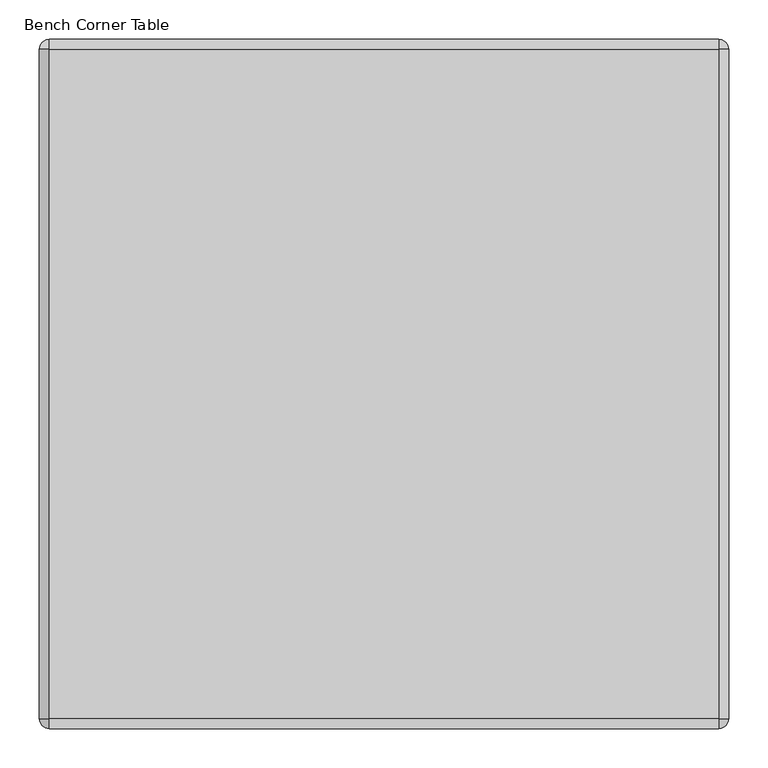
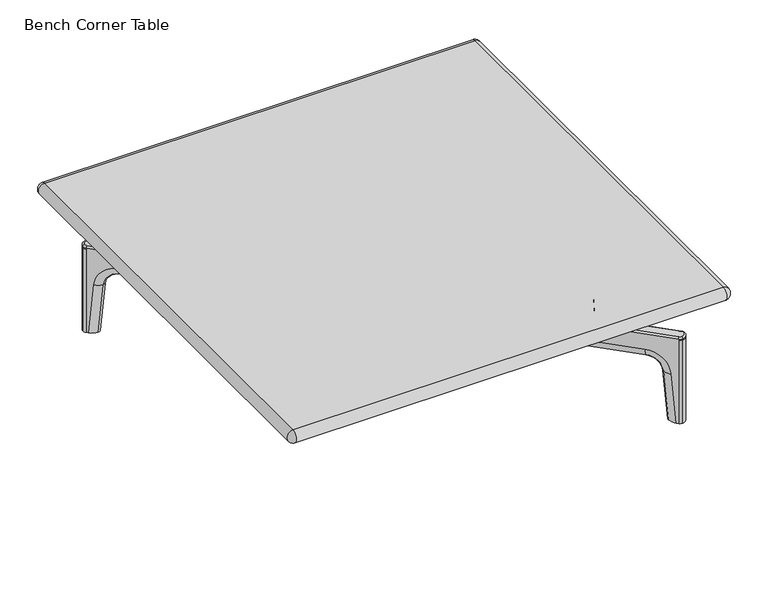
"""IFC4 building model written with IfcOpenShell, lengths in millimetres: furniture geometry, Stylex - NYC - Table : Bench Corner Table."""

from ifc_helpers import new_model, si_unit, point, frame, frame_2d, origin, place, context, project, spatial, polyline, circle_curve, ellipse_curve, trimmed, segment, composite_curve, outline, extrude, source, transform, mapped, element, save
from ifc_brep_helpers import plane_surface, cylinder_surface, revolved_surface, advanced_brep


def bench_corner_table_58ed4f08(model_context):
    return source(origin(), model_context, "Body", "SolidModel", [
        advanced_brep(
        [(-382.0547414, 370.5574512, 0.0), (-382.0547414, 370.5574512, 173.4104691), (-370.5574512, 382.0547414, 173.4104691), (-370.5574512, 382.0547414, 0.0), (-363.8925481, 379.6079963, 173.4104691), (-363.8925481, 379.6079963, 0.0), (-379.6079963, 363.8925481, 0.0), (-379.6079963, 363.8925481, 173.4104691), (-379.6079963, 363.8925481, 176.5854691), (-377.3629323, 366.1376122, 179.7604691), (-378.8903394, 370.2982501, 179.7604691), (-382.0547414, 370.5574512, 176.5854691), (-370.2982501, 378.8903394, 179.7604691), (-370.5574512, 382.0547414, 176.5854691), (-366.1376122, 377.3629323, 179.7604691), (-363.8925481, 379.6079963, 176.5854691), (-273.1247552, 261.8994351, 179.7604691), (-272.0022232, 263.0219671, 179.7604691), (-263.0219671, 272.0022232, 179.7604691), (-261.8994351, 273.1247552, 179.7604691), (354.8815567, -370.597005, 101.6111748), (361.1676129, -376.8830611, 0.0), (363.8925481, -379.6079963, 0.0), (363.8925481, -379.6079963, 173.4104691), (363.8925481, -379.6079963, 176.5854691), (259.6259655, -275.3414137, 176.5854691), (252.9000037, -268.6154519, 185.6119691), (251.7180773, -267.4335255, 217.506021), (-267.4619311, 251.7464829, 217.506021), (-268.6438575, 252.9284093, 185.6119691), (-275.3698193, 259.6543711, 176.5854691), (-376.8830611, 361.1676129, 0.0), (-370.597005, 354.8815567, 101.6111748), (-337.4084783, 321.6930301, 144.6197874), (321.6930301, -337.4084783, 144.6197874), (-354.8815567, 370.597005, 101.6111748), (-361.1676129, 376.8830611, 0.0), (-259.6543711, 275.3698193, 176.5854691), (-252.9284093, 268.6438575, 185.6119691), (-251.7464829, 267.4619311, 217.506021), (267.4335255, -251.7180773, 217.506021), (268.615452, -252.9000037, 185.6119691), (275.3414137, -259.6259655, 176.5854691), (379.6079963, -363.8925481, 176.5854691), (379.6079963, -363.8925481, 173.4104691), (379.6079963, -363.8925481, 0.0), (376.8830611, -361.1676129, 0.0), (370.597005, -354.8815567, 101.6111748), (337.4084783, -321.6930301, 144.6197874), (-321.6930301, 337.4084783, 144.6197874), (-361.5708392, 354.3766366, 0.0), (-355.3687323, 348.1745297, 100.2541732), (-354.3766366, 361.5708392, 0.0), (-348.1745297, 355.3687323, 100.2541732), (-333.1478555, 325.9536529, 129.0499403), (-325.9536529, 333.1478555, 129.0499403), (325.9536529, -333.1478555, 129.0499403), (333.1478555, -325.9536529, 129.0499403), (348.1745297, -355.3687323, 100.2541732), (355.3687323, -348.1745297, 100.2541732), (354.3766366, -361.5708392, 0.0), (361.5708392, -354.3766366, 0.0), (382.0547414, -370.5574512, 0.0), (370.5574512, -382.0547414, 0.0), (-267.5182487, 258.5379926, 185.7781358), (-258.5379926, 267.5182487, 185.7781358), (-268.6407807, 257.4154606, 185.7781358), (-267.3473532, 256.1220331, 220.681021), (-256.1220331, 267.3473532, 220.681021), (-257.4154606, 268.6407807, 185.7781358), (256.0936275, -267.3189477, 220.681021), (267.3189477, -256.0936275, 220.681021), (267.4898432, -258.509587, 185.7781358), (268.6123752, -257.387055, 185.7781358), (257.387055, -268.6123752, 185.7781358), (258.509587, -267.4898432, 185.7781358), (262.9935615, -271.9738176, 179.7604691), (271.9738176, -262.9935615, 179.7604691), (261.8710295, -273.0963497, 179.7604691), (366.1376122, -377.3629323, 179.7604691), (370.2982501, -378.8903394, 179.7604691), (378.8903394, -370.2982501, 179.7604691), (377.3629323, -366.1376122, 179.7604691), (273.0963497, -261.8710295, 179.7604691), (382.0547414, -370.5574512, 173.4104691), (370.5574512, -382.0547414, 173.4104691), (370.5574512, -382.0547414, 176.5854691), (382.0547414, -370.5574512, 176.5854691)],
        [
            (0, 1),
            (1, 2, circle_curve(frame((-369.5316668, 369.5316668, 173.4104691), z_axis=(0.0, 0.0, -1.0), x_axis=(-0.7071067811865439, -0.7071067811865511, 0.0)), 12.5650161)),
            (2, 3),
            (3, 0, circle_curve(frame((-369.5316668, 369.5316668, 0.0), z_axis=(0.0, 0.0, 1.0), x_axis=(-0.7071067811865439, -0.7071067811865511, 0.0)), 12.5650161)),
            (2, 4, circle_curve(frame((-369.8676081, 373.6329363, 173.4104691), z_axis=(0.0, 0.0, -1.0), x_axis=(-0.7071067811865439, -0.7071067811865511, 0.0)), 8.4500109)),
            (4, 5),
            (5, 3, circle_curve(frame((-369.8676081, 373.6329363, 0.0), z_axis=(0.0, 0.0, 1.0), x_axis=(-0.7071067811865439, -0.7071067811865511, 0.0)), 8.4500109)),
            (6, 7),
            (7, 1, circle_curve(frame((-373.6329363, 369.8676081, 173.4104691), z_axis=(0.0, 0.0, -1.0), x_axis=(-0.7071067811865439, -0.7071067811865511, 0.0)), 8.4500109)),
            (0, 6, circle_curve(frame((-373.6329363, 369.8676081, 0.0), z_axis=(0.0, 0.0, 1.0), x_axis=(-0.7071067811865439, -0.7071067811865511, 0.0)), 8.4500109)),
            (8, 9, circle_curve(frame((-377.3629323, 366.1376122, 176.5854691), z_axis=(-0.7071067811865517, 0.7071067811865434, 0.0), x_axis=(0.7071067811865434, 0.7071067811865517, 0.0)), 3.175)),
            (9, 10, circle_curve(frame((-373.6329363, 369.8676081, 179.7604691), z_axis=(0.0, 0.0, -1.0), x_axis=(-0.7071067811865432, -0.7071067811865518, 0.0)), 5.2750109)),
            (10, 11, circle_curve(frame((-378.8903394, 370.2982501, 176.5854691), z_axis=(-0.081638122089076, -0.996662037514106, 0.0), x_axis=(0.996662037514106, -0.081638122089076, 0.0)), 3.175)),
            (11, 8, circle_curve(frame((-373.6329363, 369.8676081, 176.5854691), z_axis=(0.0, 0.0, 1.0), x_axis=(-0.7071067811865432, -0.7071067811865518, 0.0)), 8.4500109)),
            (11, 1),
            (7, 8),
            (10, 12, circle_curve(frame((-369.5316668, 369.5316668, 179.7604691), z_axis=(0.0, 0.0, -1.0), x_axis=(-0.9966620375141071, 0.08163812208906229, 0.0)), 9.3900161)),
            (12, 13, circle_curve(frame((-370.2982501, 378.8903394, 176.5854691), z_axis=(-0.9966620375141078, -0.08163812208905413, 0.0), x_axis=(0.08163812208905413, -0.9966620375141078, 0.0)), 3.175)),
            (13, 11, circle_curve(frame((-369.5316668, 369.5316668, 176.5854691), z_axis=(0.0, 0.0, 1.0), x_axis=(-0.9966620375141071, 0.08163812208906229, 0.0)), 12.5650161)),
            (13, 2),
            (12, 14, circle_curve(frame((-369.8676081, 373.6329363, 179.7604691), z_axis=(0.0, 0.0, -1.0), x_axis=(-0.08163812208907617, 0.996662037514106, 0.0)), 5.2750109)),
            (14, 15, circle_curve(frame((-366.1376122, 377.3629323, 176.5854691), z_axis=(-0.7071067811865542, 0.7071067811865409, 0.0), x_axis=(-0.7071067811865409, -0.7071067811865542, 0.0)), 3.175)),
            (15, 13, circle_curve(frame((-369.8676081, 373.6329363, 176.5854691), z_axis=(0.0, 0.0, 1.0), x_axis=(-0.08163812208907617, 0.996662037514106, 0.0)), 8.4500109)),
            (15, 4),
            (9, 16),
            (16, 17),
            (17, 18),
            (18, 19),
            (19, 14),
            (20, 21),
            (21, 22),
            (22, 23),
            (23, 24),
            (24, 25),
            (25, 26, circle_curve(frame((259.6259655, -275.3414137, 186.1104691), z_axis=(0.7071067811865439, 0.7071067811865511, 0.0), x_axis=(0.0, 0.0, -1.0)), 9.525)),
            (26, 27),
            (27, 28),
            (28, 29),
            (29, 30, circle_curve(frame((-275.3698193, 259.6543711, 186.1104691), z_axis=(0.7071067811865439, 0.7071067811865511, 0.0), x_axis=(0.7061377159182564, -0.7061377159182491, -0.05233595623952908)), 9.525)),
            (30, 8),
            (6, 31),
            (31, 32),
            (32, 33, circle_curve(frame((-337.4084783, 321.6930301, 97.5048362), z_axis=(0.7071067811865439, 0.7071067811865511, 0.0), x_axis=(-0.7044160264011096, 0.7044160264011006, 0.08715574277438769)), 47.1149511)),
            (33, 34),
            (34, 20, circle_curve(frame((321.6930301, -337.4084783, 97.5048362), z_axis=(0.7071067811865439, 0.7071067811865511, 0.0), x_axis=(0.0, 0.0, 1.0)), 47.1149511)),
            (35, 36),
            (36, 5),
            (15, 37),
            (37, 38, circle_curve(frame((-259.6543711, 275.3698193, 186.1104691), z_axis=(-0.7071067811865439, -0.7071067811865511, 0.0), x_axis=(0.0, 0.0, -1.0)), 9.525)),
            (38, 39),
            (39, 40),
            (40, 41),
            (41, 42, circle_curve(frame((275.3414137, -259.6259655, 186.1104691), z_axis=(-0.7071067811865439, -0.7071067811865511, 0.0), x_axis=(-0.70613771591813, 0.7061377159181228, -0.05233595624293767)), 9.525)),
            (42, 43),
            (43, 44),
            (44, 45),
            (45, 46),
            (46, 47),
            (47, 48, circle_curve(frame((337.4084783, -321.6930301, 97.5048362), z_axis=(-0.7071067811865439, -0.7071067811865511, 0.0), x_axis=(0.0, 0.0, 1.0)), 47.1149511)),
            (48, 49),
            (49, 35, circle_curve(frame((-321.6930301, 337.4084783, 97.5048362), z_axis=(-0.7071067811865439, -0.7071067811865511, 0.0), x_axis=(-0.7044160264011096, 0.7044160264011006, 0.08715574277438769)), 47.1149511)),
            (31, 50, ellipse_curve(frame((-360.5282954, 377.5223786, 0.0), z_axis=(0.0, 0.0, 1.0), x_axis=(-0.7071067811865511, 0.7071067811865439, 0.0)), 23.217481, 23.1291315)),
            (50, 51),
            (51, 32, circle_curve(frame((-354.2422392, 371.2363225, 101.6111748), z_axis=(-0.061628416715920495, 0.06162841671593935, -0.9961946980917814), x_axis=(0.7071067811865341, 0.7071067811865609, 0.0)), 23.1291315)),
            (50, 52, ellipse_curve(frame((-361.2607605, 361.2607605, 0.0), z_axis=(0.0, 0.0, 1.0), x_axis=(-0.7071067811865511, 0.7071067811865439, 0.0)), 6.9054609, 6.8791835)),
            (52, 53),
            (53, 51, circle_curve(frame((-355.033685, 355.033685, 100.6577795), z_axis=(-0.061628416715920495, 0.06162841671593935, -0.9961946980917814), x_axis=(-0.7071067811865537, -0.7071067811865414, 0.0)), 6.8791835)),
            (52, 36, ellipse_curve(frame((-377.5223786, 360.5282954, 0.0), z_axis=(0.0, 0.0, 1.0), x_axis=(-0.7071067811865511, 0.7071067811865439, 0.0)), 23.217481, 23.1291315)),
            (35, 53, circle_curve(frame((-371.2363225, 354.2422392, 101.6111748), z_axis=(-0.061628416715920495, 0.06162841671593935, -0.9961946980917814), x_axis=(-0.7071067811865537, -0.7071067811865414, 0.0)), 23.1291315)),
            (51, 54, circle_curve(frame((-333.1478555, 325.9536529, 97.5048362), z_axis=(0.7071067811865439, 0.7071067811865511, 0.0), x_axis=(-0.7044160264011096, 0.7044160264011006, 0.08715574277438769)), 31.545104)),
            (54, 33, circle_curve(frame((-321.0537126, 338.0477958, 144.6197874), z_axis=(-0.7071067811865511, 0.7071067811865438, 0.0), x_axis=(0.7071067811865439, 0.7071067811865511, 0.0)), 23.1291315)),
            (53, 55, circle_curve(frame((-325.9536529, 333.1478555, 97.5048362), z_axis=(0.7071067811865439, 0.7071067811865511, 0.0), x_axis=(-0.7044160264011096, 0.7044160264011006, 0.08715574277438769)), 31.545104)),
            (55, 54, circle_curve(frame((-329.5507542, 329.5507542, 133.6808031), z_axis=(-0.7071067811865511, 0.7071067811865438, 0.0), x_axis=(-0.7071067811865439, -0.7071067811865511, 0.0)), 6.8791835)),
            (49, 55, circle_curve(frame((-338.0477958, 321.0537126, 144.6197874), z_axis=(-0.7071067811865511, 0.7071067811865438, 0.0), x_axis=(-0.7071067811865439, -0.7071067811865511, 0.0)), 23.1291315)),
            (54, 56),
            (56, 34, circle_curve(frame((338.0477958, -321.0537126, 144.6197874), z_axis=(-0.7071067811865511, 0.7071067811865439, 0.0), x_axis=(0.7071067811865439, 0.7071067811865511, 0.0)), 23.1291315)),
            (55, 57),
            (57, 56, circle_curve(frame((329.5507542, -329.5507542, 133.6808031), z_axis=(-0.7071067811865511, 0.7071067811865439, 0.0), x_axis=(-0.7071067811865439, -0.7071067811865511, 0.0)), 6.8791835)),
            (48, 57, circle_curve(frame((321.0537126, -338.0477958, 144.6197874), z_axis=(-0.7071067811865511, 0.7071067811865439, 0.0), x_axis=(-0.7071067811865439, -0.7071067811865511, 0.0)), 23.1291315)),
            (56, 58, circle_curve(frame((325.9536529, -333.1478555, 97.5048362), z_axis=(0.7071067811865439, 0.7071067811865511, 0.0), x_axis=(0.0, 0.0, 1.0)), 31.545104)),
            (58, 20, circle_curve(frame((371.2363225, -354.2422392, 101.6111748), z_axis=(-0.0616284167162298, 0.0616284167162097, 0.9961946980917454), x_axis=(0.7071067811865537, 0.7071067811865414, 0.0)), 23.1291315)),
            (57, 59, circle_curve(frame((333.1478555, -325.9536529, 97.5048362), z_axis=(0.7071067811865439, 0.7071067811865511, 0.0), x_axis=(0.0, 0.0, 1.0)), 31.545104)),
            (59, 58, circle_curve(frame((355.033685, -355.033685, 100.6577795), z_axis=(-0.06162841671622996, 0.061628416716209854, 0.9961946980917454), x_axis=(-0.7071067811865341, -0.7071067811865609, 0.0)), 6.8791835)),
            (47, 59, circle_curve(frame((354.2422392, -371.2363225, 101.6111748), z_axis=(-0.06162841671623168, 0.061628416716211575, 0.9961946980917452), x_axis=(-0.7071067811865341, -0.7071067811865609, 0.0)), 23.1291315)),
            (58, 60),
            (60, 21, ellipse_curve(frame((377.5223786, -360.5282954, 0.0), z_axis=(0.0, 0.0, 1.0), x_axis=(-0.7071067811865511, 0.7071067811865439, 0.0)), 23.217481, 23.1291315)),
            (59, 61),
            (61, 60, ellipse_curve(frame((361.2607605, -361.2607605, 0.0), z_axis=(0.0, 0.0, 1.0), x_axis=(-0.7071067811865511, 0.7071067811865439, 0.0)), 6.9054609, 6.8791835)),
            (46, 61, ellipse_curve(frame((360.5282954, -377.5223786, 0.0), z_axis=(0.0, 0.0, 1.0), x_axis=(-0.7071067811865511, 0.7071067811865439, 0.0)), 23.217481, 23.1291315)),
            (45, 62, circle_curve(frame((373.6329363, -369.8676081, 0.0), z_axis=(0.0, 0.0, -1.0), x_axis=(-0.7071067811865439, -0.7071067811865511, 0.0)), 8.4500109)),
            (62, 63, circle_curve(frame((369.5316668, -369.5316668, 0.0), z_axis=(0.0, 0.0, -1.0), x_axis=(-0.7071067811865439, -0.7071067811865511, 0.0)), 12.5650161)),
            (63, 22, circle_curve(frame((369.8676081, -373.6329363, 0.0), z_axis=(0.0, 0.0, -1.0), x_axis=(-0.7071067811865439, -0.7071067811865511, 0.0)), 8.4500109)),
            (17, 64, circle_curve(frame((-272.0022232, 263.0219671, 186.1104691), z_axis=(-0.7071067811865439, -0.7071067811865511, 0.0), x_axis=(-0.7071067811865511, 0.7071067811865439, 0.0)), 6.35)),
            (64, 65),
            (65, 18, circle_curve(frame((-263.0219671, 272.0022232, 186.1104691), z_axis=(0.7071067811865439, 0.7071067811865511, 0.0), x_axis=(-0.7071067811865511, 0.7071067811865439, 0.0)), 6.35)),
            (64, 66),
            (66, 67),
            (67, 68),
            (68, 69),
            (69, 65),
            (70, 71),
            (71, 68),
            (67, 70),
            (72, 73),
            (73, 71),
            (70, 74),
            (74, 75),
            (75, 72),
            (75, 76, circle_curve(frame((262.9935615, -271.9738176, 186.1104691), z_axis=(-0.7071067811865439, -0.7071067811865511, 0.0), x_axis=(-0.7071067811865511, 0.7071067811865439, 0.0)), 6.35)),
            (76, 77),
            (77, 72, circle_curve(frame((271.9738176, -262.9935615, 186.1104691), z_axis=(0.7071067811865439, 0.7071067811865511, 0.0), x_axis=(-0.7071067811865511, 0.7071067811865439, 0.0)), 6.35)),
            (76, 78),
            (78, 79),
            (79, 80, circle_curve(frame((369.8676081, -373.6329363, 179.7604691), z_axis=(0.0, 0.0, 1.0), x_axis=(-0.7071067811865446, -0.7071067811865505, 0.0)), 5.2750109)),
            (80, 81, circle_curve(frame((369.5316668, -369.5316668, 179.7604691), z_axis=(0.0, 0.0, 1.0), x_axis=(0.08163812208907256, -0.9966620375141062, 0.0)), 9.3900161)),
            (81, 82, circle_curve(frame((373.6329363, -369.8676081, 179.7604691), z_axis=(0.0, 0.0, 1.0), x_axis=(0.9966620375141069, -0.08163812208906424, 0.0)), 5.2750109)),
            (82, 83),
            (83, 77),
            (62, 84),
            (84, 85, circle_curve(frame((369.5316668, -369.5316668, 173.4104691), z_axis=(0.0, 0.0, -1.0), x_axis=(-0.7071067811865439, -0.7071067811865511, 0.0)), 12.5650161)),
            (85, 63),
            (44, 84, circle_curve(frame((373.6329363, -369.8676081, 173.4104691), z_axis=(0.0, 0.0, -1.0), x_axis=(-0.7071067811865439, -0.7071067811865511, 0.0)), 8.4500109)),
            (85, 23, circle_curve(frame((369.8676081, -373.6329363, 173.4104691), z_axis=(0.0, 0.0, -1.0), x_axis=(-0.7071067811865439, -0.7071067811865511, 0.0)), 8.4500109)),
            (86, 80, circle_curve(frame((370.2982501, -378.8903394, 176.5854691), z_axis=(-0.9966620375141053, -0.08163812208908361, 0.0), x_axis=(0.08163812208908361, -0.9966620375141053, 0.0)), 3.175)),
            (79, 24, circle_curve(frame((366.1376122, -377.3629323, 176.5854691), z_axis=(0.7071067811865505, -0.7071067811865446, 0.0), x_axis=(-0.7071067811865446, -0.7071067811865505, 0.0)), 3.175)),
            (24, 86, circle_curve(frame((369.8676081, -373.6329363, 176.5854691), z_axis=(0.0, 0.0, 1.0), x_axis=(-0.7071067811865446, -0.7071067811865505, 0.0)), 8.4500109)),
            (85, 86),
            (86, 87, circle_curve(frame((369.5316668, -369.5316668, 176.5854691), z_axis=(0.0, 0.0, 1.0), x_axis=(0.08163812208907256, -0.9966620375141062, 0.0)), 12.5650161)),
            (87, 81, circle_curve(frame((378.8903394, -370.2982501, 176.5854691), z_axis=(-0.08163812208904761, -0.9966620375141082, 0.0), x_axis=(0.9966620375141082, -0.08163812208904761, 0.0)), 3.175)),
            (84, 87),
            (87, 43, circle_curve(frame((373.6329363, -369.8676081, 176.5854691), z_axis=(0.0, 0.0, 1.0), x_axis=(0.9966620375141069, -0.08163812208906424, 0.0)), 8.4500109)),
            (43, 82, circle_curve(frame((377.3629323, -366.1376122, 176.5854691), z_axis=(0.7071067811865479, -0.7071067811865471, 0.0), x_axis=(0.7071067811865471, 0.7071067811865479, 0.0)), 3.175)),
            (78, 25, circle_curve(frame((261.8710295, -273.0963497, 176.5854691), z_axis=(0.7071067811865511, -0.7071067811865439, 0.0), x_axis=(0.0, 0.0, 1.0)), 3.175)),
            (78, 74, circle_curve(frame((261.8710295, -273.0963497, 186.1104691), z_axis=(0.7071067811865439, 0.7071067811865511, 0.0), x_axis=(0.0, 0.0, -1.0)), 6.35)),
            (74, 26, circle_curve(frame((255.1450678, -266.3703879, 185.6119691), z_axis=(0.03700710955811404, -0.037007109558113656, -0.9986295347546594), x_axis=(0.7061377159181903, -0.7061377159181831, 0.05233595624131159)), 3.175)),
            (70, 27, ellipse_curve(frame((253.9631413, -265.1884615, 217.506021), z_axis=(0.5129171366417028, -0.5129171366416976, -0.6883545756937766), x_axis=(-0.48674018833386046, 0.4867401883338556, -0.7253743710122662)), 4.3770502, 3.175)),
            (67, 28, ellipse_curve(frame((-265.216867, 253.9915469, 217.506021), z_axis=(0.5129171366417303, -0.5129171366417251, 0.6883545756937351), x_axis=(0.4867401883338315, -0.4867401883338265, -0.7253743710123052)), 4.3770502, 3.175)),
            (30, 16, circle_curve(frame((-273.1247552, 261.8994351, 176.5854691), z_axis=(-0.7071067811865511, 0.7071067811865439, 0.0), x_axis=(0.0, 0.0, 1.0)), 3.175)),
            (19, 37, circle_curve(frame((-261.8994351, 273.1247552, 176.5854691), z_axis=(-0.7071067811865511, 0.7071067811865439, 0.0), x_axis=(0.0, 0.0, 1.0)), 3.175)),
            (39, 68, ellipse_curve(frame((-253.9915469, 265.216867, 217.506021), z_axis=(0.5129171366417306, -0.5129171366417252, 0.688354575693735), x_axis=(-0.4867401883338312, 0.4867401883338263, 0.7253743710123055)), 4.3770502, 3.175)),
            (71, 40, ellipse_curve(frame((265.1884615, -253.9631413, 217.506021), z_axis=(-0.512917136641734, 0.5129171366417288, 0.6883545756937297), x_axis=(-0.4867401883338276, 0.4867401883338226, -0.7253743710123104)), 4.3770502, 3.175)),
            (42, 83, circle_curve(frame((273.0963497, -261.8710295, 176.5854691), z_axis=(0.7071067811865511, -0.7071067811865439, 0.0), x_axis=(0.0, 0.0, 1.0)), 3.175)),
            (66, 29, circle_curve(frame((-266.3987935, 255.1734733, 185.6119691), z_axis=(0.037007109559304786, -0.037007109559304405, 0.9986295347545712), x_axis=(-0.7061377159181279, 0.7061377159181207, 0.05233595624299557)), 3.175)),
            (66, 16, circle_curve(frame((-273.1247552, 261.8994351, 186.1104691), z_axis=(0.7071067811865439, 0.7071067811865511, 0.0), x_axis=(0.7061377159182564, -0.7061377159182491, -0.05233595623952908)), 6.35)),
            (69, 19, circle_curve(frame((-261.8994351, 273.1247552, 186.1104691), z_axis=(0.7071067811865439, 0.7071067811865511, 0.0), x_axis=(0.0, 0.0, -1.0)), 6.35)),
            (69, 38, circle_curve(frame((-255.1734733, 266.3987935, 185.6119691), z_axis=(-0.03700710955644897, 0.037007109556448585, -0.9986295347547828), x_axis=(-0.7061377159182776, 0.7061377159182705, 0.052335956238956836)), 3.175)),
            (73, 41, circle_curve(frame((266.3703879, -255.1450678, 185.6119691), z_axis=(-0.0370071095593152, 0.03700710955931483, 0.9986295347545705), x_axis=(0.7061377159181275, -0.7061377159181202, 0.05233595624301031)), 3.175)),
            (83, 73, circle_curve(frame((273.0963497, -261.8710295, 186.1104691), z_axis=(0.7071067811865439, 0.7071067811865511, 0.0), x_axis=(-0.70613771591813, 0.7061377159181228, -0.05233595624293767)), 6.35)),
        ],
        [
            cylinder_surface(frame((-369.5316668, 369.5316668, 0.0), z_axis=(0.0, 0.0, 1.0), x_axis=(-0.7071067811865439, -0.7071067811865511, 0.0)), 12.5650161),
            cylinder_surface(frame((-369.8676081, 373.6329363, 0.0), z_axis=(0.0, 0.0, 1.0), x_axis=(-0.7071067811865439, -0.7071067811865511, 0.0)), 8.4500109),
            cylinder_surface(frame((-373.6329363, 369.8676081, 0.0), z_axis=(0.0, 0.0, 1.0), x_axis=(-0.7071067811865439, -0.7071067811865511, 0.0)), 8.4500109),
            revolved_surface(trimmed(ellipse_curve(frame((-377.3629323, 366.1376122, 176.5854691), z_axis=(-0.7071067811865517, 0.7071067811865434, 0.0), x_axis=(0.7071067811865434, 0.7071067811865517, 0.0)), 3.175, 3.175), [point((-379.6079963, 363.8925481, 176.5854691))], [point((-377.3629323, 366.1376122, 179.7604691))], True, "CARTESIAN"), (-373.6329363, 369.8676081, 0.0), (0.0, 0.0, 1.0)),
            cylinder_surface(frame((-373.6329363, 369.8676081, 0.0), z_axis=(0.0, 0.0, 1.0), x_axis=(-0.7071067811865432, -0.7071067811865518, 0.0)), 8.4500109),
            revolved_surface(trimmed(ellipse_curve(frame((-378.8903394, 370.2982501, 176.5854691), z_axis=(0.08163812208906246, 0.9966620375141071, 0.0), x_axis=(0.9966620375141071, -0.08163812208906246, 0.0)), 3.175, 3.175), [point((-382.0547414, 370.5574512, 176.5854691))], [point((-378.8903394, 370.2982501, 179.7604691))], True, "CARTESIAN"), (-369.5316668, 369.5316668, 0.0), (0.0, 0.0, 1.0)),
            cylinder_surface(frame((-369.5316668, 369.5316668, 0.0), z_axis=(0.0, 0.0, 1.0), x_axis=(-0.9966620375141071, 0.08163812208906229, 0.0)), 12.5650161),
            revolved_surface(trimmed(ellipse_curve(frame((-370.2982501, 378.8903394, 176.5854691), z_axis=(0.996662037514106, 0.08163812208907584, 0.0), x_axis=(0.08163812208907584, -0.996662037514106, 0.0)), 3.175, 3.175), [point((-370.5574512, 382.0547414, 176.5854691))], [point((-370.2982501, 378.8903394, 179.7604691))], True, "CARTESIAN"), (-369.8676081, 373.6329363, 0.0), (0.0, 0.0, 1.0)),
            cylinder_surface(frame((-369.8676081, 373.6329363, 0.0), z_axis=(0.0, 0.0, 1.0), x_axis=(-0.08163812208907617, 0.996662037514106, 0.0)), 8.4500109),
            plane_surface(frame((-357.9383265, 366.9185826, 179.7604691), z_axis=(0.0, 0.0, 1.0), x_axis=(0.7071067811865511, -0.7071067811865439, 0.0))),
            plane_surface(frame((-380.1078761, 364.3924279, -8.0803238), z_axis=(-0.7071067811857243, -0.7071067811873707, 0.0), x_axis=(0.06162841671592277, -0.06162841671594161, 0.9961946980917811))),
            plane_surface(frame((-361.6881916, 377.4036398, -8.4149126), z_axis=(0.7071067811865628, 0.7071067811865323, 0.0), x_axis=(0.0616284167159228, -0.06162841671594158, 0.9961946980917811))),
            cylinder_surface(frame((-361.0488741, 378.0429573, -8.4149126), z_axis=(-0.061628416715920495, 0.06162841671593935, -0.9961946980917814), x_axis=(0.7071067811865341, 0.7071067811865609, 0.0)), 23.1291315),
            cylinder_surface(frame((-361.8403199, 361.8403199, -9.3683079), z_axis=(-0.061628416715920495, 0.06162841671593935, -0.9961946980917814), x_axis=(-0.7071067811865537, -0.7071067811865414, 0.0)), 6.8791835),
            cylinder_surface(frame((-378.0429573, 361.0488741, -8.4149126), z_axis=(-0.061628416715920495, 0.06162841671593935, -0.9961946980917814), x_axis=(-0.7071067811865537, -0.7071067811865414, 0.0)), 23.1291315),
            revolved_surface(trimmed(ellipse_curve(frame((-354.2422392, 371.2363225, 101.6111748), z_axis=(0.0616284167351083, -0.06162841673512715, 0.9961946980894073), x_axis=(0.7071067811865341, 0.7071067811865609, 0.0)), 23.1291315, 23.1291315), [point((-370.597005, 354.8815567, 101.6111748))], [point((-355.3687323, 348.1745297, 100.2541732))], True, "CARTESIAN"), (-329.5507542, 329.5507542, 97.5048362), (-0.7071067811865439, -0.7071067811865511, 0.0)),
            revolved_surface(trimmed(ellipse_curve(frame((-355.033685, 355.033685, 100.6577795), z_axis=(0.0616284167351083, -0.06162841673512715, 0.9961946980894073), x_axis=(-0.7071067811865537, -0.7071067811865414, 0.0)), 6.8791835, 6.8791835), [point((-355.3687323, 348.1745297, 100.2541732))], [point((-348.1745297, 355.3687323, 100.2541732))], True, "CARTESIAN"), (-329.5507542, 329.5507542, 97.5048362), (-0.7071067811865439, -0.7071067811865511, 0.0)),
            revolved_surface(trimmed(ellipse_curve(frame((-371.2363225, 354.2422392, 101.6111748), z_axis=(0.0616284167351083, -0.06162841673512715, 0.9961946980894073), x_axis=(-0.7071067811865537, -0.7071067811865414, 0.0)), 23.1291315, 23.1291315), [point((-348.1745297, 355.3687323, 100.2541732))], [point((-354.8815567, 370.597005, 101.6111748))], True, "CARTESIAN"), (-329.5507542, 329.5507542, 97.5048362), (-0.7071067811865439, -0.7071067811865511, 0.0)),
            cylinder_surface(frame((-321.0537126, 338.0477958, 144.6197874), z_axis=(-0.7071067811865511, 0.7071067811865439, 0.0), x_axis=(0.7071067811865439, 0.7071067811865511, 0.0)), 23.1291315),
            cylinder_surface(frame((-329.5507542, 329.5507542, 133.6808031), z_axis=(-0.7071067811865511, 0.7071067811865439, 0.0), x_axis=(-0.7071067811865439, -0.7071067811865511, 0.0)), 6.8791835),
            cylinder_surface(frame((-338.0477958, 321.0537126, 144.6197874), z_axis=(-0.7071067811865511, 0.7071067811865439, 0.0), x_axis=(-0.7071067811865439, -0.7071067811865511, 0.0)), 23.1291315),
            revolved_surface(trimmed(ellipse_curve(frame((338.0477958, -321.0537126, 144.6197874), z_axis=(0.7071067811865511, -0.7071067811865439, 0.0), x_axis=(0.7071067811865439, 0.7071067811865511, 0.0)), 23.1291315, 23.1291315), [point((321.6930301, -337.4084783, 144.6197874))], [point((325.9536529, -333.1478555, 129.0499403))], True, "CARTESIAN"), (329.5507542, -329.5507542, 97.5048362), (-0.7071067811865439, -0.7071067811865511, 0.0)),
            revolved_surface(trimmed(ellipse_curve(frame((329.5507542, -329.5507542, 133.6808031), z_axis=(0.7071067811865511, -0.7071067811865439, 0.0), x_axis=(-0.7071067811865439, -0.7071067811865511, 0.0)), 6.8791835, 6.8791835), [point((325.9536529, -333.1478555, 129.0499403))], [point((333.1478555, -325.9536529, 129.0499403))], True, "CARTESIAN"), (329.5507542, -329.5507542, 97.5048362), (-0.7071067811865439, -0.7071067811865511, 0.0)),
            revolved_surface(trimmed(ellipse_curve(frame((321.0537126, -338.0477958, 144.6197874), z_axis=(0.7071067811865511, -0.7071067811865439, 0.0), x_axis=(-0.7071067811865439, -0.7071067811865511, 0.0)), 23.1291315, 23.1291315), [point((333.1478555, -325.9536529, 129.0499403))], [point((337.4084783, -321.6930301, 144.6197874))], True, "CARTESIAN"), (329.5507542, -329.5507542, 97.5048362), (-0.7071067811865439, -0.7071067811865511, 0.0)),
            cylinder_surface(frame((371.2363225, -354.2422392, 101.6111748), z_axis=(-0.06162841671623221, 0.061628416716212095, 0.9961946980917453), x_axis=(0.7071067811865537, 0.7071067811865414, 0.0)), 23.1291315),
            cylinder_surface(frame((355.033685, -355.033685, 100.6577795), z_axis=(-0.06162841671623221, 0.061628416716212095, 0.9961946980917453), x_axis=(-0.7071067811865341, -0.7071067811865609, 0.0)), 6.8791835),
            cylinder_surface(frame((354.2422392, -371.2363225, 101.6111748), z_axis=(-0.06162841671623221, 0.061628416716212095, 0.9961946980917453), x_axis=(-0.7071067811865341, -0.7071067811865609, 0.0)), 23.1291315),
            plane_surface(frame((-418.3974541, 380.1955564, 0.0), z_axis=(0.0, 0.0, -1.0), x_axis=(0.7071067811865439, 0.7071067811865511, 0.0))),
            revolved_surface(polyline([(-267.51209516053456, 276.4923512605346, 186.1104691), (-276.4923512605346, 267.5120951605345, 186.1104691)]), (-263.0219671, 272.0022232, 186.1104691), (0.7071067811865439, 0.7071067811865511, 0.0)),
            plane_surface(frame((-267.5182487, 258.5379926, 185.7781358), z_axis=(-0.7061377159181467, 0.7061377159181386, 0.05233595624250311), x_axis=(0.7071067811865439, 0.7071067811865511, 0.0))),
            plane_surface(frame((-266.2248212, 257.2445651, 220.681021), z_axis=(0.0, 0.0, 1.0), x_axis=(0.7071067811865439, 0.7071067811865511, 0.0))),
            plane_surface(frame((257.2161595, -266.1964157, 220.681021), z_axis=(0.7061377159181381, -0.7061377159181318, 0.05233595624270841), x_axis=(0.7071067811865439, 0.7071067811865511, 0.0))),
            revolved_surface(polyline([(267.4836895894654, -258.50343338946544, 186.1104691), (258.5034333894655, -267.4836895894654, 186.1104691)]), (271.9738176, -262.9935615, 186.1104691), (0.7071067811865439, 0.7071067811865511, 0.0)),
            plane_surface(frame((262.9935615, -271.9738176, 179.7604691), z_axis=(0.0, 0.0, 1.0), x_axis=(0.7071067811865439, 0.7071067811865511, 0.0))),
            cylinder_surface(frame((369.5316668, -369.5316668, 0.0), z_axis=(0.0, 0.0, 1.0), x_axis=(-0.7071067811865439, -0.7071067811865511, 0.0)), 12.5650161),
            cylinder_surface(frame((373.6329363, -369.8676081, 0.0), z_axis=(0.0, 0.0, 1.0), x_axis=(-0.7071067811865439, -0.7071067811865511, 0.0)), 8.4500109),
            cylinder_surface(frame((369.8676081, -373.6329363, 0.0), z_axis=(0.0, 0.0, 1.0), x_axis=(-0.7071067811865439, -0.7071067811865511, 0.0)), 8.4500109),
            revolved_surface(trimmed(ellipse_curve(frame((366.1376122, -377.3629323, 176.5854691), z_axis=(0.7071067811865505, -0.7071067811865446, 0.0), x_axis=(-0.7071067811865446, -0.7071067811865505, 0.0)), 3.175, 3.175), [point((366.1376122, -377.3629323, 179.7604691))], [point((363.8925481, -379.6079963, 176.5854691))], True, "CARTESIAN"), (369.8676081, -373.6329363, 0.0), (0.0, 0.0, -1.0)),
            cylinder_surface(frame((369.8676081, -373.6329363, 0.0), z_axis=(0.0, 0.0, -1.0), x_axis=(-0.7071067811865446, -0.7071067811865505, 0.0)), 8.4500109),
            revolved_surface(trimmed(ellipse_curve(frame((370.2982501, -378.8903394, 176.5854691), z_axis=(0.9966620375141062, 0.08163812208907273, 0.0), x_axis=(0.08163812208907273, -0.9966620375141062, 0.0)), 3.175, 3.175), [point((370.2982501, -378.8903394, 179.7604691))], [point((370.5574512, -382.0547414, 176.5854691))], True, "CARTESIAN"), (369.5316668, -369.5316668, 0.0), (0.0, 0.0, -1.0)),
            cylinder_surface(frame((369.5316668, -369.5316668, 0.0), z_axis=(0.0, 0.0, -1.0), x_axis=(0.08163812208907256, -0.9966620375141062, 0.0)), 12.5650161),
            revolved_surface(trimmed(ellipse_curve(frame((378.8903394, -370.2982501, 176.5854691), z_axis=(0.08163812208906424, 0.9966620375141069, 0.0), x_axis=(0.9966620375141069, -0.08163812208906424, 0.0)), 3.175, 3.175), [point((378.8903394, -370.2982501, 179.7604691))], [point((382.0547414, -370.5574512, 176.5854691))], True, "CARTESIAN"), (373.6329363, -369.8676081, 0.0), (0.0, 0.0, -1.0)),
            cylinder_surface(frame((373.6329363, -369.8676081, 0.0), z_axis=(0.0, 0.0, -1.0), x_axis=(0.9966620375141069, -0.08163812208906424, 0.0)), 8.4500109),
            cylinder_surface(frame((366.1376122, -377.3629323, 176.5854691), z_axis=(0.7071067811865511, -0.7071067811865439, 0.0), x_axis=(0.0, 0.0, 1.0)), 3.175),
            revolved_surface(trimmed(ellipse_curve(frame((261.8710295, -273.0963497, 176.5854691), z_axis=(-0.7071067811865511, 0.7071067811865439, 0.0), x_axis=(0.0, 0.0, 1.0)), 3.175, 3.175), [point((259.6259655, -275.3414137, 176.5854691))], [point((261.8710295, -273.0963497, 179.7604691))], True, "CARTESIAN"), (262.9935615, -271.9738176, 186.1104691), (-0.7071067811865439, -0.7071067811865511, 0.0)),
            revolved_surface(polyline([(261.87102945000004, -273.09634965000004, 179.7604691), (262.9935615, -271.9738176, 179.7604691)]), (262.9935615, -271.9738176, 186.1104691), (-0.7071067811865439, -0.7071067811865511, 0.0)),
            cylinder_surface(frame((255.1450678, -266.3703879, 185.6119691), z_axis=(0.037007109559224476, -0.0370071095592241, -0.9986295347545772), x_axis=(0.7061377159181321, -0.7061377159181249, 0.052335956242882)), 3.175),
            cylinder_surface(frame((251.8326551, -263.0579752, 217.506021), z_axis=(0.7071067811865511, -0.7071067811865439, 0.0), x_axis=(0.0, 0.0, 1.0)), 3.175),
            cylinder_surface(frame((-273.1247552, 261.8994351, 176.5854691), z_axis=(0.7071067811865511, -0.7071067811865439, 0.0), x_axis=(0.0, 0.0, 1.0)), 3.175),
            cylinder_surface(frame((-366.1376122, 377.3629323, 176.5854691), z_axis=(-0.7071067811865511, 0.7071067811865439, 0.0), x_axis=(0.0, 0.0, 1.0)), 3.175),
            cylinder_surface(frame((-251.8610607, 263.0863808, 217.506021), z_axis=(-0.7071067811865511, 0.7071067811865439, 0.0), x_axis=(0.0, 0.0, 1.0)), 3.175),
            cylinder_surface(frame((273.0963497, -261.8710295, 176.5854691), z_axis=(-0.7071067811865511, 0.7071067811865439, 0.0), x_axis=(0.0, 0.0, 1.0)), 3.175),
            cylinder_surface(frame((-265.3283681, 254.1030479, 214.4971877), z_axis=(0.037007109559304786, -0.037007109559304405, 0.9986295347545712), x_axis=(-0.7061377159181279, 0.7061377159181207, 0.05233595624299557)), 3.175),
            revolved_surface(trimmed(ellipse_curve(frame((-266.3987935, 255.1734733, 185.6119691), z_axis=(-0.037007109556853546, 0.03700710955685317, -0.9986295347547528), x_axis=(-0.7061377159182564, 0.7061377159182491, 0.052335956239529)), 3.175, 3.175), [point((-268.6438575, 252.9284093, 185.6119691))], [point((-268.6407807, 257.4154606, 185.7781358))], True, "CARTESIAN"), (-272.0022232, 263.0219671, 186.1104691), (-0.7071067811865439, -0.7071067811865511, 0.0)),
            revolved_surface(polyline([(-268.64078070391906, 257.4154606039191, 185.778135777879), (-267.5182487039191, 258.5379926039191, 185.778135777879)]), (-272.0022232, 263.0219671, 186.1104691), (-0.7071067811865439, -0.7071067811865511, 0.0)),
            revolved_surface(polyline([(-261.8994351, 273.1247552, 179.7604691), (-263.0219671, 272.0022232, 179.7604691)]), (-263.0219671, 272.0022232, 186.1104691), (0.7071067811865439, 0.7071067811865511, 0.0)),
            revolved_surface(trimmed(ellipse_curve(frame((-261.8994351, 273.1247552, 176.5854691), z_axis=(0.7071067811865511, -0.7071067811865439, 0.0), x_axis=(0.0, 0.0, 1.0)), 3.175, 3.175), [point((-259.6543711, 275.3698193, 176.5854691))], [point((-261.8994351, 273.1247552, 179.7604691))], True, "CARTESIAN"), (-263.0219671, 272.0022232, 186.1104691), (0.7071067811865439, 0.7071067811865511, 0.0)),
            cylinder_surface(frame((-255.1734733, 266.3987935, 185.6119691), z_axis=(-0.03700710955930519, 0.03700710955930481, -0.9986295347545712), x_axis=(-0.7061377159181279, 0.7061377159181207, 0.05233595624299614)), 3.175),
            cylinder_surface(frame((265.2999625, -254.0746423, 214.4971877), z_axis=(-0.0370071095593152, 0.03700710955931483, 0.9986295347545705), x_axis=(0.7061377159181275, -0.7061377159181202, 0.05233595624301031)), 3.175),
            revolved_surface(polyline([(268.6123751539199, -257.3870549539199, 185.77813577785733), (267.4898431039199, -258.50958700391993, 185.77813577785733)]), (271.9738176, -262.9935615, 186.1104691), (0.7071067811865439, 0.7071067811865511, 0.0)),
            revolved_surface(trimmed(ellipse_curve(frame((266.3703879, -255.1450678, 185.6119691), z_axis=(0.03700710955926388, -0.03700710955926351, -0.9986295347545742), x_axis=(0.70613771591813, -0.7061377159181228, 0.052335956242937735)), 3.175, 3.175), [point((268.615452, -252.9000037, 185.6119691))], [point((268.6123752, -257.387055, 185.7781358))], True, "CARTESIAN"), (271.9738176, -262.9935615, 186.1104691), (0.7071067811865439, 0.7071067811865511, 0.0)),
        ],
        [
            (0, [[1, 2, 3, 4]]),
            (1, [[-3, 5, 6, 7]]),
            (2, [[8, 9, -1, 10]]),
            (3, [[11, 12, 13, 14]]),
            (4, [[15, -9, 16, -14]]),
            (5, [[17, 18, 19, -13]]),
            (6, [[-19, 20, -2, -15]]),
            (7, [[21, 22, 23, -18]]),
            (8, [[-23, 24, -5, -20]]),
            (9, [[25, 26, 27, 28, 29, -21, -17, -12]]),
            (10, [[30, 31, 32, 33, 34, 35, 36, 37, 38, 39, 40, -16, -8, 41, 42, 43, 44, 45]]),
            (11, [[46, 47, -6, -24, 48, 49, 50, 51, 52, 53, 54, 55, 56, 57, 58, 59, 60, 61]]),
            (12, [[-42, 62, 63, 64]]),
            (13, [[-63, 65, 66, 67]]),
            (14, [[-66, 68, -46, 69]]),
            (15, [[-64, 70, 71, -43]]),
            (16, [[72, 73, -70, -67]]),
            (17, [[74, -72, -69, -61]]),
            (18, [[-71, 75, 76, -44]]),
            (19, [[77, 78, -75, -73]]),
            (20, [[79, -77, -74, -60]]),
            (21, [[-76, 80, 81, -45]]),
            (22, [[82, 83, -80, -78]]),
            (23, [[84, -82, -79, -59]]),
            (24, [[85, 86, -30, -81]]),
            (25, [[87, 88, -85, -83]]),
            (26, [[-58, 89, -87, -84]]),
            (27, [[-86, -88, -89, -57, 90, 91, 92, -31]]),
            (27, [[-10, -4, -7, -47, -68, -65, -62, -41]]),
            (28, [[93, 94, 95, -27]]),
            (29, [[96, 97, 98, 99, 100, -94]]),
            (30, [[101, 102, -98, 103]]),
            (31, [[104, 105, -101, 106, 107, 108]]),
            (32, [[109, 110, 111, -108]]),
            (33, [[112, 113, 114, 115, 116, 117, 118, -110]]),
            (34, [[119, 120, 121, -91]]),
            (35, [[-56, 122, -119, -90]]),
            (36, [[-121, 123, -32, -92]]),
            (37, [[124, -114, 125, 126]]),
            (38, [[-33, -123, 127, -126]]),
            (39, [[128, 129, -115, -124]]),
            (40, [[-120, 130, -128, -127]]),
            (41, [[131, 132, -116, -129]]),
            (42, [[-122, -55, -131, -130]]),
            (43, [[-125, -113, 133, -34]]),
            (44, [[134, 135, -35, -133]]),
            (45, [[-109, -107, -134, -112]]),
            (46, [[-135, -106, 136, -36]]),
            (47, [[-136, -103, 137, -37]]),
            (48, [[138, -25, -11, -40]]),
            (49, [[139, -48, -22, -29]]),
            (50, [[140, -102, 141, -51]]),
            (51, [[142, -117, -132, -54]]),
            (52, [[-137, -97, 143, -38]]),
            (53, [[-143, 144, -138, -39]]),
            (54, [[-144, -96, -93, -26]]),
            (55, [[-95, -100, 145, -28]]),
            (56, [[-139, -145, 146, -49]]),
            (57, [[-146, -99, -140, -50]]),
            (58, [[-141, -105, 147, -52]]),
            (59, [[148, -104, -111, -118]]),
            (60, [[-147, -148, -142, -53]]),
        ],
    ),
        extrude(outline(composite_curve([segment(trimmed(circle_curve(frame_2d((-237.331359, -237.3313838)), 9.525), [point((-237.331359, -246.8563838))], [point((-237.331359, -227.8063838))], False, "CARTESIAN"), True, "CONTINUOUS"), segment(trimmed(circle_curve(frame_2d((-237.331359, -237.3313838)), 9.525), [point((-237.331359, -227.8063838))], [point((-237.331359, -246.8563838))], False, "CARTESIAN"), True, "CONTINUOUS")], self_intersect=False)), frame((0.0, 0.0, 220.681021), z_axis=(0.0, 0.0, 1.0), x_axis=(1.0, 0.0, 0.0)), (0.0, 0.0, 1.0), 42.8439913),
        extrude(outline(composite_curve([segment(trimmed(circle_curve(frame_2d((237.331359, -237.3313838)), 9.525), [point((237.331359, -246.8563838))], [point((237.331359, -227.8063838))], False, "CARTESIAN"), True, "CONTINUOUS"), segment(trimmed(circle_curve(frame_2d((237.331359, -237.3313838)), 9.525), [point((237.331359, -227.8063838))], [point((237.331359, -246.8563838))], False, "CARTESIAN"), True, "CONTINUOUS")], self_intersect=False)), frame((0.0, 0.0, 220.681021), z_axis=(0.0, 0.0, 1.0), x_axis=(1.0, 0.0, 0.0)), (0.0, 0.0, 1.0), 42.8439913),
        extrude(outline(composite_curve([segment(trimmed(circle_curve(frame_2d((-237.331359, 237.3313838)), 9.525), [point((-237.331359, 227.8063838))], [point((-237.331359, 246.8563838))], False, "CARTESIAN"), True, "CONTINUOUS"), segment(trimmed(circle_curve(frame_2d((-237.331359, 237.3313838)), 9.525), [point((-237.331359, 246.8563838))], [point((-237.331359, 227.8063838))], False, "CARTESIAN"), True, "CONTINUOUS")], self_intersect=False)), frame((0.0, 0.0, 220.681021), z_axis=(0.0, 0.0, 1.0), x_axis=(1.0, 0.0, 0.0)), (0.0, 0.0, 1.0), 42.8439913),
        extrude(outline(composite_curve([segment(trimmed(circle_curve(frame_2d((237.331359, 237.3313838)), 9.525), [point((237.331359, 227.8063838))], [point((237.331359, 246.8563838))], False, "CARTESIAN"), True, "CONTINUOUS"), segment(trimmed(circle_curve(frame_2d((237.331359, 237.3313838)), 9.525), [point((237.331359, 246.8563838))], [point((237.331359, 227.8063838))], False, "CARTESIAN"), True, "CONTINUOUS")], self_intersect=False)), frame((0.0, 0.0, 220.681021), z_axis=(0.0, 0.0, 1.0), x_axis=(1.0, 0.0, 0.0)), (0.0, 0.0, 1.0), 42.8439913),
        extrude(outline(polyline([(349.2499831, -349.2500169), (-349.2499831, -349.2500169), (-349.2499831, 349.2499831), (349.2499831, 349.2499831), (349.2499831, -349.2500169)])), frame((0.0, 0.0, 263.5250123), z_axis=(0.0, 0.0, 1.0), x_axis=(1.0, 0.0, 0.0)), (0.0, 0.0, 1.0), 2.4401501),
        advanced_brep(
        [(425.4498999, -425.4498999, 265.9651624), (425.4498999, -425.4498999, 291.3651624), (-425.4498999, -425.4498999, 291.3651624), (-425.4498999, -425.4498999, 265.9651624), (425.4498999, 425.4498999, 291.3651624), (425.4498999, 425.4498999, 265.9651624), (-425.4498999, 425.4498999, 265.9651624), (-425.4498999, 425.4498999, 291.3651624)],
        [
            (0, 1, circle_curve(frame((425.4498999, -425.4498999, 278.6651624), z_axis=(-1.0, 0.0, 0.0), x_axis=(0.0, -1.0, 0.0)), 12.7)),
            (1, 2),
            (2, 3, circle_curve(frame((-425.4498999, -425.4498999, 278.6651624), z_axis=(1.0, 0.0, 0.0), x_axis=(0.0, -1.0, 0.0)), 12.7)),
            (3, 0),
            (4, 5, circle_curve(frame((425.4498999, 425.4498999, 278.6651624), z_axis=(-1.0, 0.0, 0.0), x_axis=(0.0, -1.0, 0.0)), 12.7)),
            (5, 6),
            (6, 7, circle_curve(frame((-425.4498999, 425.4498999, 278.6651624), z_axis=(1.0, 0.0, 0.0), x_axis=(0.0, -1.0, 0.0)), 12.7)),
            (7, 4),
            (1, 4),
            (7, 2),
            (3, 6),
            (5, 0),
            (7, 6, circle_curve(frame((-425.4498999, 425.4498999, 278.6651624), z_axis=(0.0, -1.0, 0.0), x_axis=(0.0, 0.0, 1.0)), 12.7)),
            (3, 2, circle_curve(frame((-425.4498999, -425.4498999, 278.6651624), z_axis=(0.0, 1.0, 0.0), x_axis=(0.0, 0.0, 1.0)), 12.7)),
            (1, 0, circle_curve(frame((425.4498999, -425.4498999, 278.6651624), z_axis=(0.0, 1.0, 0.0), x_axis=(0.0, 0.0, 1.0)), 12.7)),
            (5, 4, circle_curve(frame((425.4498999, 425.4498999, 278.6651624), z_axis=(0.0, -1.0, 0.0), x_axis=(0.0, 0.0, 1.0)), 12.7)),
        ],
        [
            cylinder_surface(frame((-425.4498999, -425.4498999, 278.6651624), z_axis=(1.0, 0.0, 0.0), x_axis=(0.0, -1.0, 0.0)), 12.7),
            cylinder_surface(frame((-425.4498999, 425.4498999, 278.6651624), z_axis=(1.0, 0.0, 0.0), x_axis=(0.0, -1.0, 0.0)), 12.7),
            plane_surface(frame((425.4498999, -425.4498999, 291.3651624), z_axis=(0.0, 0.0, 1.0), x_axis=(-1.0, 0.0, 0.0))),
            plane_surface(frame((425.4498999, 425.4498999, 265.9651624), z_axis=(0.0, 0.0, -1.0), x_axis=(-1.0, 0.0, 0.0))),
            cylinder_surface(frame((-425.4498999, 425.4498999, 278.6651624), z_axis=(0.0, 1.0, 0.0), x_axis=(0.0, 0.0, 1.0)), 12.7),
            revolved_surface(trimmed(ellipse_curve(frame((-425.4498999, 425.4498999, 278.6651624), z_axis=(0.0, -1.0, 0.0), x_axis=(1.0, 0.0, 0.0)), 12.7, 12.7), [point((-425.4498999, 425.4498999, 291.3651624))], [point((-425.4498999, 425.4498999, 265.9651624))], True, "CARTESIAN"), (-425.4498999, 425.4498999, 291.3651624), (0.0, 0.0, -1.0)),
            cylinder_surface(frame((425.4498999, -425.4498999, 278.6651624), z_axis=(0.0, 1.0, 0.0), x_axis=(0.0, 0.0, 1.0)), 12.7),
            revolved_surface(trimmed(ellipse_curve(frame((425.4498999, 425.4498999, 278.6651624), z_axis=(0.0, -1.0, 0.0), x_axis=(1.0, 0.0, 0.0)), 12.7, 12.7), [point((425.4498999, 425.4498999, 265.9651624))], [point((425.4498999, 425.4498999, 291.3651624))], True, "CARTESIAN"), (425.4498999, 425.4498999, 291.3651624), (0.0, 0.0, 1.0)),
            revolved_surface(trimmed(ellipse_curve(frame((425.4498999, -425.4498999, 278.6651624), z_axis=(0.0, 1.0, 0.0), x_axis=(1.0, 0.0, 0.0)), 12.7, 12.7), [point((425.4498999, -425.4498999, 291.3651624))], [point((425.4498999, -425.4498999, 265.9651624))], True, "CARTESIAN"), (425.4498999, -425.4498999, 291.3651624), (0.0, 0.0, -1.0)),
            revolved_surface(trimmed(ellipse_curve(frame((-425.4498999, -425.4498999, 278.6651624), z_axis=(0.0, 1.0, 0.0), x_axis=(1.0, 0.0, 0.0)), 12.7, 12.7), [point((-425.4498999, -425.4498999, 265.9651624))], [point((-425.4498999, -425.4498999, 291.3651624))], True, "CARTESIAN"), (-425.4498999, -425.4498999, 291.3651624), (0.0, 0.0, 1.0)),
        ],
        [
            (0, [[1, 2, 3, 4]]),
            (1, [[5, 6, 7, 8]]),
            (2, [[9, -8, 10, -2]]),
            (3, [[11, -6, 12, -4]]),
            (4, [[13, -11, 14, -10]]),
            (5, [[-13, -7]]),
            (6, [[15, -12, 16, -9]]),
            (7, [[-16, -5]]),
            (8, [[-15, -1]]),
            (9, [[-14, -3]]),
        ],
    ),
    ])


if __name__ == "__main__":
    model = new_model("IFC4")
    model_context = context("Model", 3, world=origin())
    ifc_project = project(units=[si_unit("LENGTHUNIT", "METRE", prefix="MILLI")], contexts=[model_context])
    site = spatial("IfcSite", under=ifc_project)
    building = spatial("IfcBuilding", under=site)
    placement = place(None, origin())
    bench_corner_table_shape = bench_corner_table_58ed4f08(model_context)
    element("IfcFurniture", 1, ObjectType="Stylex - NYC - Table : Bench Corner Table", at=placement, inside=building, context=model_context, shape_type="MappedRepresentation", body=[
        mapped(bench_corner_table_shape, transform((0.0, 0.0, 0.0), x_axis=(1.0, 0.0, 0.0), y_axis=(0.0, 1.0, 0.0), z_axis=(0.0, 0.0, 1.0))),
    ])
    save(model, "model.ifc")
